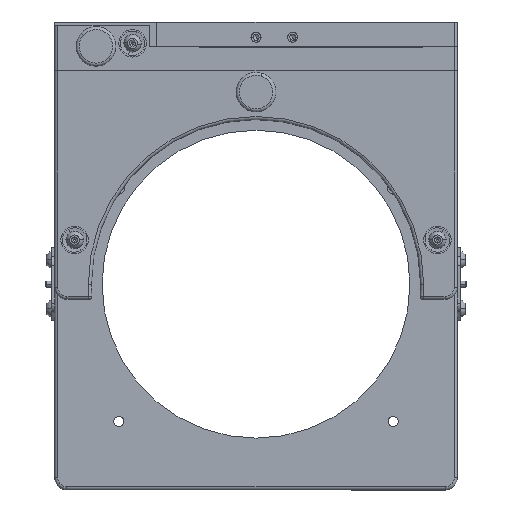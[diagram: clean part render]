
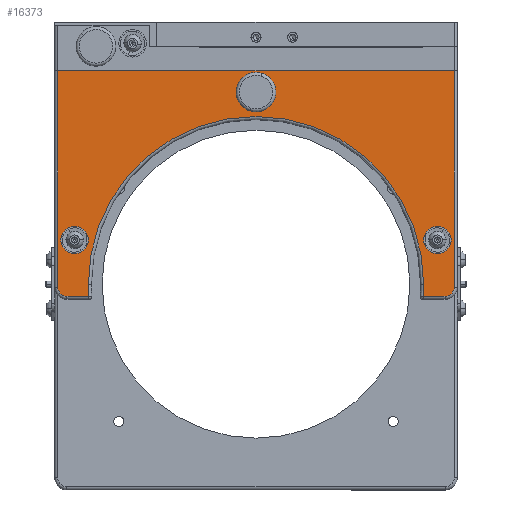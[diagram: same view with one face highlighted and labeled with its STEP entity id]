
A CAD part, front view. The second image highlights one B-rep face of the part: STEP entity #16373.
In plain terms, the highlighted planar face has unit normal (0, -1, 0).
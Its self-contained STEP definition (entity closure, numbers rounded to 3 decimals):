
#162 = CARTESIAN_POINT ( 'NONE',  ( 60.922, -13.405, -84.393 ) ) ;
#229 = CIRCLE ( 'NONE', #14988, 3. ) ;
#522 = EDGE_CURVE ( 'NONE', #14737, #19413, #15980, .T. ) ;
#610 = DIRECTION ( 'NONE',  ( 1., 0., 0. ) ) ;
#644 = DIRECTION ( 'NONE',  ( -1., 0., 0. ) ) ;
#646 = FACE_OUTER_BOUND ( 'NONE', #3126, .T. ) ;
#1204 = CARTESIAN_POINT ( 'NONE',  ( 63.922, -13.405, -10.393 ) ) ;
#1335 = ORIENTED_EDGE ( 'NONE', *, *, #12887, .T. ) ;
#1591 = EDGE_CURVE ( 'NONE', #7924, #18536, #24172, .T. ) ;
#1932 = AXIS2_PLACEMENT_3D ( 'NONE', #14839, #22530, #18934 ) ;
#2184 = CARTESIAN_POINT ( 'NONE',  ( -56.078, -13.405, -80.393 ) ) ;
#2564 = VECTOR ( 'NONE', #610, 1000. ) ;
#2764 = DIRECTION ( 'NONE',  ( 1., 0., 0. ) ) ;
#2852 = CIRCLE ( 'NONE', #6547, 4.5 ) ;
#2928 = DIRECTION ( 'NONE',  ( -1., 0., 0. ) ) ;
#3126 = EDGE_LOOP ( 'NONE', ( #7250, #16390, #22782, #10203, #15392, #8005, #10839, #15081, #8427, #1335 ) ) ;
#3199 = CARTESIAN_POINT ( 'NONE',  ( -1.078, -13.405, -80.393 ) ) ;
#3241 = AXIS2_PLACEMENT_3D ( 'NONE', #15359, #18881, #4174 ) ;
#3354 = ORIENTED_EDGE ( 'NONE', *, *, #1591, .F. ) ;
#4174 = DIRECTION ( 'NONE',  ( -1., 0., 0. ) ) ;
#4327 = ORIENTED_EDGE ( 'NONE', *, *, #23246, .F. ) ;
#4485 = LINE ( 'NONE', #23742, #16159 ) ;
#4762 = AXIS2_PLACEMENT_3D ( 'NONE', #11811, #21291, #10098 ) ;
#5073 = DIRECTION ( 'NONE',  ( 0., 1., 0. ) ) ;
#5154 = CARTESIAN_POINT ( 'NONE',  ( -1.078, -13.405, -85.393 ) ) ;
#5418 = EDGE_LOOP ( 'NONE', ( #3354, #4327 ) ) ;
#5894 = EDGE_CURVE ( 'NONE', #8417, #12579, #16702, .T. ) ;
#6214 = CARTESIAN_POINT ( 'NONE',  ( -65.078, -13.405, -65.893 ) ) ;
#6297 = DIRECTION ( 'NONE',  ( 1., 0., 0. ) ) ;
#6449 = AXIS2_PLACEMENT_3D ( 'NONE', #5154, #14447, #23973 ) ;
#6547 = AXIS2_PLACEMENT_3D ( 'NONE', #23053, #22959, #6297 ) ;
#6693 = DIRECTION ( 'NONE',  ( 0., -1., 0. ) ) ;
#6730 = CARTESIAN_POINT ( 'NONE',  ( -63.078, -13.405, -81.393 ) ) ;
#6873 = VERTEX_POINT ( 'NONE', #15927 ) ;
#7153 = VERTEX_POINT ( 'NONE', #19211 ) ;
#7197 = EDGE_CURVE ( 'NONE', #7153, #14737, #8802, .T. ) ;
#7200 = CARTESIAN_POINT ( 'NONE',  ( 63.922, -13.405, -81.393 ) ) ;
#7216 = CIRCLE ( 'NONE', #15937, 4.5 ) ;
#7235 = EDGE_LOOP ( 'NONE', ( #10765, #16172 ) ) ;
#7250 = ORIENTED_EDGE ( 'NONE', *, *, #5894, .T. ) ;
#7774 = EDGE_LOOP ( 'NONE', ( #22682, #23613 ) ) ;
#7924 = VERTEX_POINT ( 'NONE', #15561 ) ;
#8005 = ORIENTED_EDGE ( 'NONE', *, *, #13525, .T. ) ;
#8173 = CARTESIAN_POINT ( 'NONE',  ( -54.846, -13.405, -84.393 ) ) ;
#8191 = CARTESIAN_POINT ( 'NONE',  ( -1.078, -13.405, -17.393 ) ) ;
#8264 = FACE_BOUND ( 'NONE', #7235, .T. ) ;
#8417 = VERTEX_POINT ( 'NONE', #20859 ) ;
#8427 = ORIENTED_EDGE ( 'NONE', *, *, #23727, .T. ) ;
#8802 = CIRCLE ( 'NONE', #3241, 55. ) ;
#9352 = VERTEX_POINT ( 'NONE', #1204 ) ;
#9824 = LINE ( 'NONE', #10693, #10964 ) ;
#9831 = CARTESIAN_POINT ( 'NONE',  ( 53.922, -13.405, -65.893 ) ) ;
#10098 = DIRECTION ( 'NONE',  ( -1., 0., 0. ) ) ;
#10203 = ORIENTED_EDGE ( 'NONE', *, *, #7197, .T. ) ;
#10255 = DIRECTION ( 'NONE',  ( 0., -1., 0. ) ) ;
#10356 = CARTESIAN_POINT ( 'NONE',  ( 58.422, -13.405, -65.893 ) ) ;
#10693 = CARTESIAN_POINT ( 'NONE',  ( 64.922, -13.405, -10.393 ) ) ;
#10765 = ORIENTED_EDGE ( 'NONE', *, *, #21806, .F. ) ;
#10839 = ORIENTED_EDGE ( 'NONE', *, *, #15794, .T. ) ;
#10892 = DIRECTION ( 'NONE',  ( 0., 0., 1. ) ) ;
#10964 = VECTOR ( 'NONE', #23702, 1000. ) ;
#11179 = VECTOR ( 'NONE', #2764, 1000. ) ;
#11654 = DIRECTION ( 'NONE',  ( 0., -1., 0. ) ) ;
#11770 = VERTEX_POINT ( 'NONE', #12007 ) ;
#11811 = CARTESIAN_POINT ( 'NONE',  ( -1.078, -13.405, -80.393 ) ) ;
#12007 = CARTESIAN_POINT ( 'NONE',  ( -66.078, -13.405, -10.393 ) ) ;
#12108 = EDGE_CURVE ( 'NONE', #16808, #22515, #16045, .T. ) ;
#12317 = EDGE_CURVE ( 'NONE', #21042, #12811, #22495, .T. ) ;
#12579 = VERTEX_POINT ( 'NONE', #18481 ) ;
#12811 = VERTEX_POINT ( 'NONE', #9831 ) ;
#12887 = EDGE_CURVE ( 'NONE', #6873, #8417, #229, .T. ) ;
#12901 = CIRCLE ( 'NONE', #4762, 55. ) ;
#13132 = VERTEX_POINT ( 'NONE', #7200 ) ;
#13227 = FACE_BOUND ( 'NONE', #7774, .T. ) ;
#13375 = EDGE_CURVE ( 'NONE', #22515, #16808, #2852, .T. ) ;
#13525 = EDGE_CURVE ( 'NONE', #19413, #13132, #13640, .T. ) ;
#13588 = AXIS2_PLACEMENT_3D ( 'NONE', #23961, #18189, #20163 ) ;
#13617 = CARTESIAN_POINT ( 'NONE',  ( -66.078, -13.405, -81.393 ) ) ;
#13640 = CIRCLE ( 'NONE', #13588, 3. ) ;
#13726 = DIRECTION ( 'NONE',  ( 0., -1., 0. ) ) ;
#13727 = DIRECTION ( 'NONE',  ( 0., -1., 0. ) ) ;
#13881 = CARTESIAN_POINT ( 'NONE',  ( 62.922, -13.405, -65.893 ) ) ;
#14447 = DIRECTION ( 'NONE',  ( 0., -1., 0. ) ) ;
#14600 = CARTESIAN_POINT ( 'NONE',  ( -56.078, -13.405, -65.893 ) ) ;
#14737 = VERTEX_POINT ( 'NONE', #18533 ) ;
#14839 = CARTESIAN_POINT ( 'NONE',  ( -60.578, -13.405, -65.893 ) ) ;
#14890 = VERTEX_POINT ( 'NONE', #2184 ) ;
#14988 = AXIS2_PLACEMENT_3D ( 'NONE', #6730, #13727, #644 ) ;
#15081 = ORIENTED_EDGE ( 'NONE', *, *, #22311, .T. ) ;
#15316 = CARTESIAN_POINT ( 'NONE',  ( -1.078, -13.405, -17.393 ) ) ;
#15359 = CARTESIAN_POINT ( 'NONE',  ( -1.078, -13.405, -80.393 ) ) ;
#15392 = ORIENTED_EDGE ( 'NONE', *, *, #522, .T. ) ;
#15561 = CARTESIAN_POINT ( 'NONE',  ( 3.422, -13.405, -17.393 ) ) ;
#15730 = CARTESIAN_POINT ( 'NONE',  ( 60.922, -13.405, -84.393 ) ) ;
#15794 = EDGE_CURVE ( 'NONE', #13132, #9352, #4485, .T. ) ;
#15927 = CARTESIAN_POINT ( 'NONE',  ( -66.078, -13.405, -81.393 ) ) ;
#15937 = AXIS2_PLACEMENT_3D ( 'NONE', #10356, #6693, #2928 ) ;
#15980 = LINE ( 'NONE', #15730, #2564 ) ;
#16045 = CIRCLE ( 'NONE', #1932, 4.5 ) ;
#16159 = VECTOR ( 'NONE', #10892, 1000. ) ;
#16172 = ORIENTED_EDGE ( 'NONE', *, *, #12317, .F. ) ;
#16373 = ADVANCED_FACE ( 'NONE', ( #16720, #13227, #8264, #646 ), #20175, .T. ) ;
#16390 = ORIENTED_EDGE ( 'NONE', *, *, #17388, .T. ) ;
#16426 = VECTOR ( 'NONE', #19277, 1000. ) ;
#16702 = LINE ( 'NONE', #8173, #11179 ) ;
#16720 = FACE_BOUND ( 'NONE', #5418, .T. ) ;
#16808 = VERTEX_POINT ( 'NONE', #6214 ) ;
#17192 = DIRECTION ( 'NONE',  ( -1., 0., 0. ) ) ;
#17388 = EDGE_CURVE ( 'NONE', #12579, #14890, #12901, .T. ) ;
#18129 = DIRECTION ( 'NONE',  ( -1., 0., 0. ) ) ;
#18189 = DIRECTION ( 'NONE',  ( 0., -1., 0. ) ) ;
#18481 = CARTESIAN_POINT ( 'NONE',  ( -55.933, -13.405, -84.393 ) ) ;
#18533 = CARTESIAN_POINT ( 'NONE',  ( 53.776, -13.405, -84.393 ) ) ;
#18536 = VERTEX_POINT ( 'NONE', #21322 ) ;
#18699 = AXIS2_PLACEMENT_3D ( 'NONE', #19716, #10255, #19400 ) ;
#18881 = DIRECTION ( 'NONE',  ( 0., 1., 0. ) ) ;
#18907 = AXIS2_PLACEMENT_3D ( 'NONE', #3199, #5073, #18129 ) ;
#18934 = DIRECTION ( 'NONE',  ( 1., 0., 0. ) ) ;
#19211 = CARTESIAN_POINT ( 'NONE',  ( 53.922, -13.405, -80.393 ) ) ;
#19277 = DIRECTION ( 'NONE',  ( 0., 0., -1. ) ) ;
#19400 = DIRECTION ( 'NONE',  ( -1., 0., 0. ) ) ;
#19413 = VERTEX_POINT ( 'NONE', #162 ) ;
#19610 = DIRECTION ( 'NONE',  ( -1., 0., 0. ) ) ;
#19716 = CARTESIAN_POINT ( 'NONE',  ( 58.422, -13.405, -65.893 ) ) ;
#19747 = EDGE_CURVE ( 'NONE', #14890, #7153, #22204, .T. ) ;
#20163 = DIRECTION ( 'NONE',  ( -1., 0., 0. ) ) ;
#20175 = PLANE ( 'NONE',  #6449 ) ;
#20565 = CIRCLE ( 'NONE', #20684, 4.5 ) ;
#20684 = AXIS2_PLACEMENT_3D ( 'NONE', #8191, #13726, #19610 ) ;
#20859 = CARTESIAN_POINT ( 'NONE',  ( -63.078, -13.405, -84.393 ) ) ;
#21042 = VERTEX_POINT ( 'NONE', #13881 ) ;
#21291 = DIRECTION ( 'NONE',  ( 0., 1., 0. ) ) ;
#21322 = CARTESIAN_POINT ( 'NONE',  ( -5.578, -13.405, -17.393 ) ) ;
#21806 = EDGE_CURVE ( 'NONE', #12811, #21042, #7216, .T. ) ;
#22204 = CIRCLE ( 'NONE', #18907, 55. ) ;
#22311 = EDGE_CURVE ( 'NONE', #9352, #11770, #9824, .T. ) ;
#22495 = CIRCLE ( 'NONE', #18699, 4.5 ) ;
#22515 = VERTEX_POINT ( 'NONE', #14600 ) ;
#22530 = DIRECTION ( 'NONE',  ( 0., -1., 0. ) ) ;
#22682 = ORIENTED_EDGE ( 'NONE', *, *, #12108, .F. ) ;
#22782 = ORIENTED_EDGE ( 'NONE', *, *, #19747, .T. ) ;
#22862 = AXIS2_PLACEMENT_3D ( 'NONE', #15316, #11654, #17192 ) ;
#22959 = DIRECTION ( 'NONE',  ( 0., -1., 0. ) ) ;
#23053 = CARTESIAN_POINT ( 'NONE',  ( -60.578, -13.405, -65.893 ) ) ;
#23246 = EDGE_CURVE ( 'NONE', #18536, #7924, #20565, .T. ) ;
#23613 = ORIENTED_EDGE ( 'NONE', *, *, #13375, .F. ) ;
#23702 = DIRECTION ( 'NONE',  ( -1., 0., 0. ) ) ;
#23727 = EDGE_CURVE ( 'NONE', #11770, #6873, #23791, .T. ) ;
#23742 = CARTESIAN_POINT ( 'NONE',  ( 63.922, -13.405, -10.393 ) ) ;
#23791 = LINE ( 'NONE', #13617, #16426 ) ;
#23961 = CARTESIAN_POINT ( 'NONE',  ( 60.922, -13.405, -81.393 ) ) ;
#23973 = DIRECTION ( 'NONE',  ( -1., 0., 0. ) ) ;
#24172 = CIRCLE ( 'NONE', #22862, 4.5 ) ;
